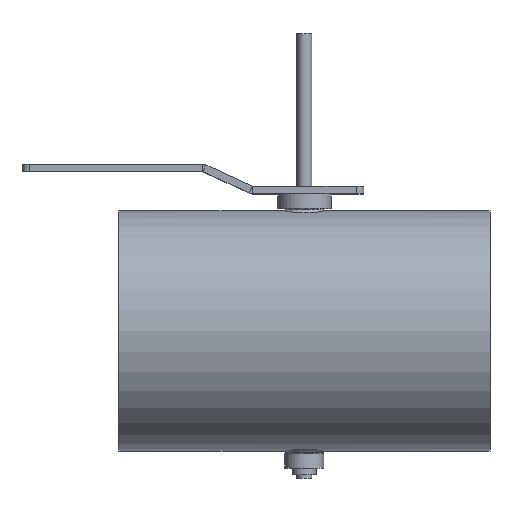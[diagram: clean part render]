
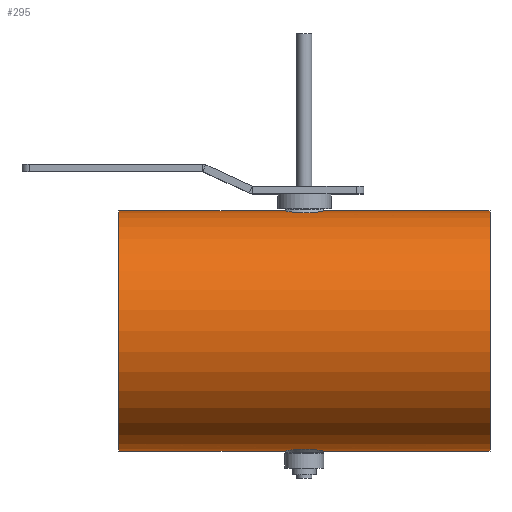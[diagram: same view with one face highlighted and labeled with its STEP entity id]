
A CAD part, top view. The second image highlights one B-rep face of the part: STEP entity #295.
In plain terms, the highlighted cylindrical face has radius 80.8 mm (diameter 161.6 mm), a full revolution.
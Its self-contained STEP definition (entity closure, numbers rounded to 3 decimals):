
#233=B_SPLINE_CURVE_WITH_KNOTS('',3,(#1721,#1722,#1723,#1724,#1725,#1726,
#1727,#1728,#1729,#1730,#1731,#1732,#1733,#1734,#1735,#1736,#1737,#1738,
#1739,#1740,#1741,#1742),.UNSPECIFIED.,.T.,.F.,(2,2,2,2,2,2,2,2,2,2,2,2,
2),(-0.062,0.,0.125,0.25,0.375,0.438,
0.5,0.625,0.75,0.875,0.938,1.,1.125),
 .UNSPECIFIED.);
#234=B_SPLINE_CURVE_WITH_KNOTS('',3,(#1744,#1745,#1746,#1747,#1748,#1749,
#1750,#1751,#1752,#1753,#1754,#1755,#1756,#1757,#1758,#1759,#1760,#1761,
#1762,#1763,#1764,#1765),.UNSPECIFIED.,.T.,.F.,(2,2,2,2,2,2,2,2,2,2,2,2,
2),(-0.125,0.,0.062,0.125,0.25,0.375,0.5,0.563,
0.625,0.75,0.875,1.,1.063),.UNSPECIFIED.);
#260=CYLINDRICAL_SURFACE('',#1222,80.8);
#295=ADVANCED_FACE('',(#425,#426,#427,#428),#260,.T.);
#425=FACE_BOUND('',#539,.T.);
#426=FACE_BOUND('',#540,.T.);
#427=FACE_BOUND('',#541,.T.);
#428=FACE_BOUND('',#542,.T.);
#539=EDGE_LOOP('',(#683));
#540=EDGE_LOOP('',(#684));
#541=EDGE_LOOP('',(#685));
#542=EDGE_LOOP('',(#686));
#683=ORIENTED_EDGE('',*,*,#1021,.T.);
#684=ORIENTED_EDGE('',*,*,#1022,.T.);
#685=ORIENTED_EDGE('',*,*,#1017,.T.);
#686=ORIENTED_EDGE('',*,*,#1019,.T.);
#921=VERTEX_POINT('',#1712);
#923=VERTEX_POINT('',#1717);
#925=VERTEX_POINT('',#1743);
#926=VERTEX_POINT('',#1766);
#1017=EDGE_CURVE('',#921,#921,#1141,.T.);
#1019=EDGE_CURVE('',#923,#923,#1143,.T.);
#1021=EDGE_CURVE('',#925,#925,#233,.T.);
#1022=EDGE_CURVE('',#926,#926,#234,.T.);
#1141=CIRCLE('',#1216,80.8);
#1143=CIRCLE('',#1219,80.8);
#1216=AXIS2_PLACEMENT_3D('',#1711,#1376,#1377);
#1219=AXIS2_PLACEMENT_3D('',#1716,#1382,#1383);
#1222=AXIS2_PLACEMENT_3D('',#1767,#1388,#1389);
#1376=DIRECTION('',(-1.,0.,0.));
#1377=DIRECTION('',(0.,0.,1.));
#1382=DIRECTION('',(1.,0.,0.));
#1383=DIRECTION('',(0.,0.,-1.));
#1388=DIRECTION('',(1.,0.,0.));
#1389=DIRECTION('',(0.,0.,-1.));
#1711=CARTESIAN_POINT('',(125.,-38.3,125.));
#1712=CARTESIAN_POINT('',(125.,-38.3,205.8));
#1716=CARTESIAN_POINT('',(-125.,-38.3,125.));
#1717=CARTESIAN_POINT('',(-125.,-38.3,44.2));
#1721=CARTESIAN_POINT('',(-2.062,-117.599,109.488));
#1722=CARTESIAN_POINT('',(-7.671,-117.937,111.287));
#1723=CARTESIAN_POINT('',(-10.71,-118.443,114.144));
#1724=CARTESIAN_POINT('',(-14.158,-119.079,121.063));
#1725=CARTESIAN_POINT('',(-14.603,-119.187,125.197));
#1726=CARTESIAN_POINT('',(-12.776,-118.819,132.714));
#1727=CARTESIAN_POINT('',(-10.485,-118.352,136.179));
#1728=CARTESIAN_POINT('',(-5.655,-117.819,139.371));
#1729=CARTESIAN_POINT('',(-3.811,-117.676,140.104));
#1730=CARTESIAN_POINT('',(0.052,-117.565,140.679));
#1731=CARTESIAN_POINT('',(2.042,-117.599,140.514));
#1732=CARTESIAN_POINT('',(7.634,-117.934,138.733));
#1733=CARTESIAN_POINT('',(10.688,-118.439,135.895));
#1734=CARTESIAN_POINT('',(14.17,-119.081,128.919));
#1735=CARTESIAN_POINT('',(14.607,-119.188,124.81));
#1736=CARTESIAN_POINT('',(12.77,-118.818,117.267));
#1737=CARTESIAN_POINT('',(10.468,-118.349,113.802));
#1738=CARTESIAN_POINT('',(5.638,-117.818,110.621));
#1739=CARTESIAN_POINT('',(3.774,-117.675,109.887));
#1740=CARTESIAN_POINT('',(-0.058,-117.565,109.324));
#1741=CARTESIAN_POINT('',(-2.062,-117.599,109.488));
#1742=CARTESIAN_POINT('',(-7.671,-117.937,111.287));
#1743=CARTESIAN_POINT('',(-3.932,-117.712,110.088));
#1744=CARTESIAN_POINT('',(-7.672,41.337,111.288));
#1745=CARTESIAN_POINT('',(-2.062,40.999,109.488));
#1746=CARTESIAN_POINT('',(-0.076,40.965,109.323));
#1747=CARTESIAN_POINT('',(3.765,41.074,109.884));
#1748=CARTESIAN_POINT('',(5.623,41.216,110.612));
#1749=CARTESIAN_POINT('',(10.487,41.751,113.813));
#1750=CARTESIAN_POINT('',(12.778,42.219,117.279));
#1751=CARTESIAN_POINT('',(14.609,42.588,124.842));
#1752=CARTESIAN_POINT('',(14.155,42.478,128.954));
#1753=CARTESIAN_POINT('',(10.699,41.841,135.869));
#1754=CARTESIAN_POINT('',(7.658,41.337,138.712));
#1755=CARTESIAN_POINT('',(2.088,41.001,140.505));
#1756=CARTESIAN_POINT('',(0.12,40.964,140.68));
#1757=CARTESIAN_POINT('',(-3.773,41.074,140.118));
#1758=CARTESIAN_POINT('',(-5.62,41.216,139.389));
#1759=CARTESIAN_POINT('',(-10.475,41.749,136.197));
#1760=CARTESIAN_POINT('',(-12.769,42.218,132.74));
#1761=CARTESIAN_POINT('',(-14.61,42.589,125.171));
#1762=CARTESIAN_POINT('',(-14.173,42.481,121.088));
#1763=CARTESIAN_POINT('',(-10.689,41.839,114.106));
#1764=CARTESIAN_POINT('',(-7.672,41.337,111.288));
#1765=CARTESIAN_POINT('',(-2.062,40.999,109.488));
#1766=CARTESIAN_POINT('',(-3.932,41.112,110.088));
#1767=CARTESIAN_POINT('',(-125.,-38.3,125.));
